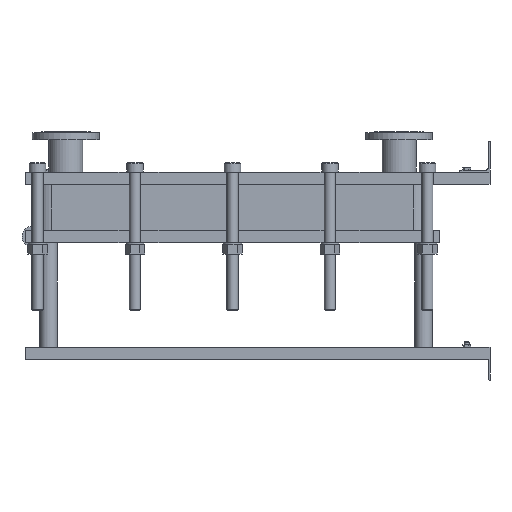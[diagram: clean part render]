
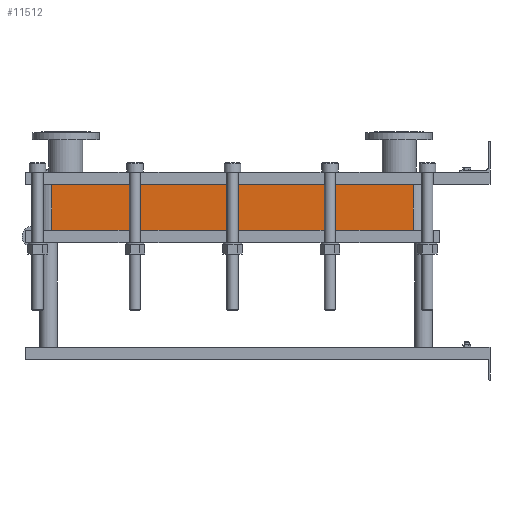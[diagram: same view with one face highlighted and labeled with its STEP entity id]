
A CAD part, left-side view. The second image highlights one B-rep face of the part: STEP entity #11512.
In plain terms, the highlighted planar face has unit normal (-1, 0, 0).
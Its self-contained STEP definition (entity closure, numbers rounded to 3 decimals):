
#1129=LINE('',#23232,#2102);
#1130=LINE('',#23236,#2103);
#1131=LINE('',#23238,#2104);
#1132=LINE('',#23239,#2105);
#2102=VECTOR('',#15887,10.);
#2103=VECTOR('',#15892,10.);
#2104=VECTOR('',#15893,10.);
#2105=VECTOR('',#15894,10.);
#3267=FACE_OUTER_BOUND('',#4093,.T.);
#4093=EDGE_LOOP('',(#10103,#10104,#10105,#10106));
#5642=VERTEX_POINT('',#23229);
#5643=VERTEX_POINT('',#23231);
#5644=VERTEX_POINT('',#23235);
#5645=VERTEX_POINT('',#23237);
#7159=EDGE_CURVE('',#5643,#5642,#1129,.T.);
#7161=EDGE_CURVE('',#5642,#5644,#1130,.T.);
#7162=EDGE_CURVE('',#5645,#5644,#1131,.T.);
#7163=EDGE_CURVE('',#5645,#5643,#1132,.T.);
#10103=ORIENTED_EDGE('',*,*,#7161,.T.);
#10104=ORIENTED_EDGE('',*,*,#7162,.F.);
#10105=ORIENTED_EDGE('',*,*,#7163,.T.);
#10106=ORIENTED_EDGE('',*,*,#7159,.T.);
#10857=PLANE('',#12751);
#11512=ADVANCED_FACE('',(#3267),#10857,.T.);
#12751=AXIS2_PLACEMENT_3D('',#23234,#15890,#15891);
#15887=DIRECTION('',(0.,0.,-1.));
#15890=DIRECTION('center_axis',(-1.,0.,0.));
#15891=DIRECTION('ref_axis',(0.,1.,0.));
#15892=DIRECTION('',(0.,-1.,0.));
#15893=DIRECTION('',(0.,0.,-1.));
#15894=DIRECTION('',(0.,1.,0.));
#23229=CARTESIAN_POINT('',(-200.,1414.,-148.35));
#23231=CARTESIAN_POINT('',(-200.,1414.,0.));
#23232=CARTESIAN_POINT('',(-200.,1414.,0.));
#23234=CARTESIAN_POINT('Origin',(-200.,248.,0.));
#23235=CARTESIAN_POINT('',(-200.,248.,-148.35));
#23236=CARTESIAN_POINT('',(-200.,539.5,-148.35));
#23237=CARTESIAN_POINT('',(-200.,248.,0.));
#23238=CARTESIAN_POINT('',(-200.,248.,0.));
#23239=CARTESIAN_POINT('',(-200.,248.,0.));
